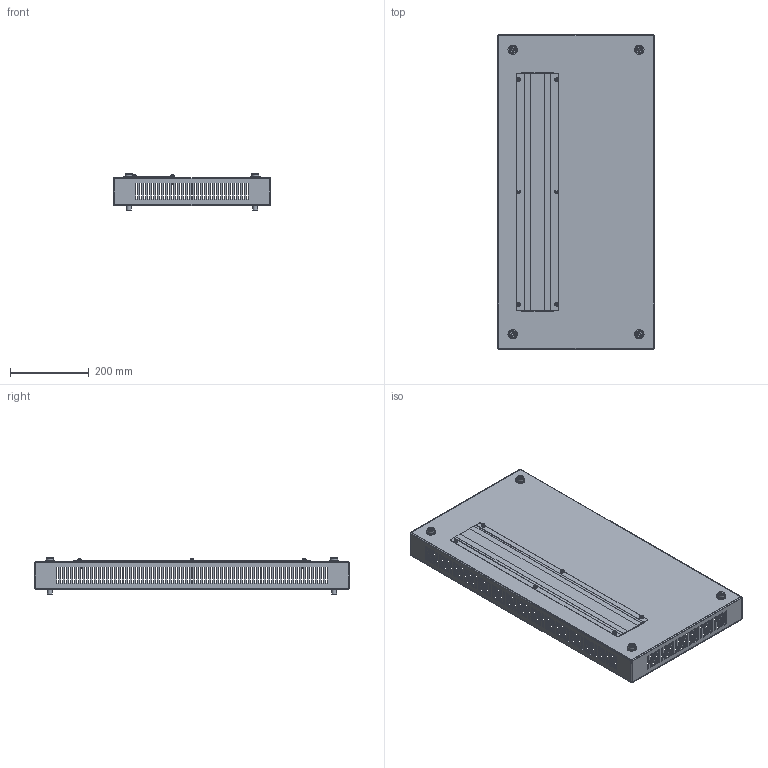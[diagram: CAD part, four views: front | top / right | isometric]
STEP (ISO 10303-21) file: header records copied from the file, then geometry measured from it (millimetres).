
FILE_DESCRIPTION(('STEP AP203'), '1');
FILE_NAME('3320 ÑÁ Ïîòîëî÷íàÿ ïàíåëü', '', ('UNSPECIFIED'), ('UNSPECIFIED'), 'C3D Converter', 'C3D Toolkit', '');
FILE_SCHEMA(('CONFIG_CONTROL_DESIGN'));
Length unit declared in the file: millimetre
Products named in the file (10): 3320.80.40.Щ СБ; 3321; 2329
Assembly tree (39 placements, depth 2):
  3320.80.40.Щ СБ
    3321
    2329  x4
    (unnamed)  x4
    (unnamed)  x4
    (unnamed)  x6
    (unnamed)  x6
    (unnamed)  x6
    (unnamed)  x6
    (unnamed)  x2
Bounding box: 397 x 797 x 93.5 mm (x, y, z)
Volume: 1018127.8 mm3; surface area: 1115103.3 mm2
Topology: 41 solids, 41 shells, 1688 faces, 4616 edges, 3052 vertices
Faces by surface type: plane 1224, cylinder 216, bspline 180, cone 26, sphere 22, torus 20
Full cylindrical faces by diameter (mm): 4.134 x6, 5 x6, 5.5 x6, 5.8 x6, 6 x4, 7 x6, 8.8 x6, 9.5 x6, 10 x6, 10.106 x4, 12 x8, 13.5 x4, 16 x4, 18 x4, 24 x4
Entity records: 41399 total; most frequent: CARTESIAN_POINT 11987, ORIENTED_EDGE 5876, DIRECTION 5198, EDGE_CURVE 2938, LINE 2720, VECTOR 2720, VERTEX_POINT 1952, EDGE_LOOP 1510
